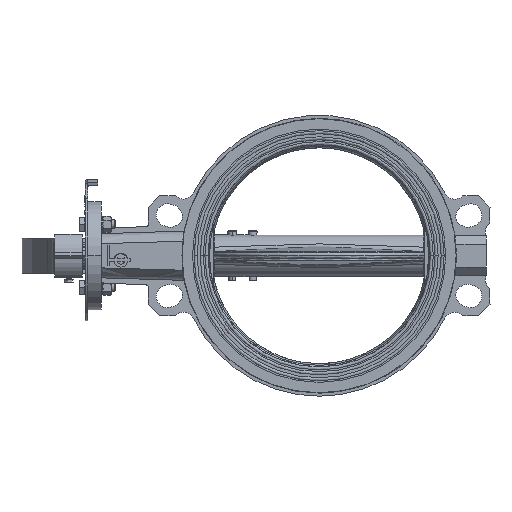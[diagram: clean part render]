
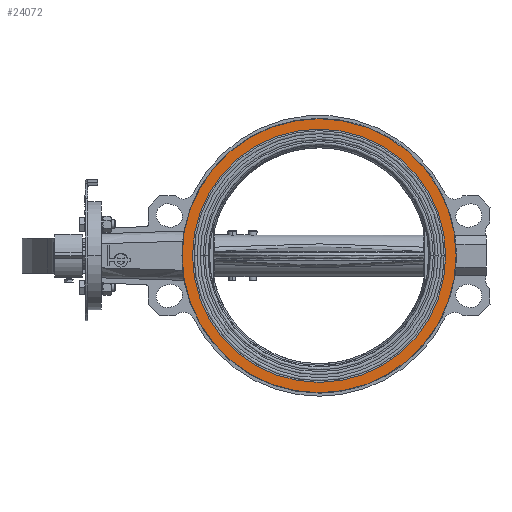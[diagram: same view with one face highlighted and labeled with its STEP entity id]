
A CAD part, left-side view. The second image highlights one B-rep face of the part: STEP entity #24072.
In plain terms, the highlighted planar face has unit normal (-1, 0, 0).
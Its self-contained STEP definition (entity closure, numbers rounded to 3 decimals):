
#912 = CIRCLE ( 'NONE', #53726, 158. ) ;
#946 = EDGE_LOOP ( 'NONE', ( #42195, #7772 ) ) ;
#2522 = CIRCLE ( 'NONE', #3567, 146. ) ;
#3353 = DIRECTION ( 'NONE',  ( 1., 0., 0. ) ) ;
#3567 = AXIS2_PLACEMENT_3D ( 'NONE', #8195, #3353, #19509 ) ;
#7772 = ORIENTED_EDGE ( 'NONE', *, *, #13177, .F. ) ;
#8195 = CARTESIAN_POINT ( 'NONE',  ( -33., 0., 0. ) ) ;
#8265 = EDGE_CURVE ( 'NONE', #38011, #41837, #9749, .T. ) ;
#9492 = EDGE_LOOP ( 'NONE', ( #27656, #36661 ) ) ;
#9749 = CIRCLE ( 'NONE', #18069, 158. ) ;
#9785 = DIRECTION ( 'NONE',  ( 1., 0., 0. ) ) ;
#10106 = FACE_BOUND ( 'NONE', #9492, .T. ) ;
#13177 = EDGE_CURVE ( 'NONE', #41837, #38011, #912, .T. ) ;
#14231 = CARTESIAN_POINT ( 'NONE',  ( -33., 0., 0. ) ) ;
#14472 = CARTESIAN_POINT ( 'NONE',  ( -33., 0., 0. ) ) ;
#15697 = VERTEX_POINT ( 'NONE', #43811 ) ;
#17483 = VERTEX_POINT ( 'NONE', #26835 ) ;
#18069 = AXIS2_PLACEMENT_3D ( 'NONE', #60992, #31714, #50582 ) ;
#19509 = DIRECTION ( 'NONE',  ( 0., 0., -1. ) ) ;
#19541 = DIRECTION ( 'NONE',  ( 0., 0., -1. ) ) ;
#22333 = CARTESIAN_POINT ( 'NONE',  ( -33., 0., -158. ) ) ;
#22938 = AXIS2_PLACEMENT_3D ( 'NONE', #14472, #44641, #44964 ) ;
#24072 = ADVANCED_FACE ( 'NONE', ( #10106, #53940 ), #28594, .F. ) ;
#26835 = CARTESIAN_POINT ( 'NONE',  ( -33., 0., -146. ) ) ;
#27656 = ORIENTED_EDGE ( 'NONE', *, *, #30415, .T. ) ;
#28594 = PLANE ( 'NONE',  #31197 ) ;
#29109 = DIRECTION ( 'NONE',  ( 0., 0., -1. ) ) ;
#30415 = EDGE_CURVE ( 'NONE', #17483, #15697, #2522, .T. ) ;
#31197 = AXIS2_PLACEMENT_3D ( 'NONE', #54264, #9785, #19541 ) ;
#31714 = DIRECTION ( 'NONE',  ( 1., 0., 0. ) ) ;
#34009 = DIRECTION ( 'NONE',  ( 1., 0., 0. ) ) ;
#36099 = CARTESIAN_POINT ( 'NONE',  ( -33., 0., 158. ) ) ;
#36661 = ORIENTED_EDGE ( 'NONE', *, *, #58767, .T. ) ;
#38011 = VERTEX_POINT ( 'NONE', #22333 ) ;
#41837 = VERTEX_POINT ( 'NONE', #36099 ) ;
#42195 = ORIENTED_EDGE ( 'NONE', *, *, #8265, .F. ) ;
#43811 = CARTESIAN_POINT ( 'NONE',  ( -33., 0., 146. ) ) ;
#44641 = DIRECTION ( 'NONE',  ( 1., 0., 0. ) ) ;
#44964 = DIRECTION ( 'NONE',  ( 0., 0., -1. ) ) ;
#50582 = DIRECTION ( 'NONE',  ( 0., 0., -1. ) ) ;
#50916 = CIRCLE ( 'NONE', #22938, 146. ) ;
#53726 = AXIS2_PLACEMENT_3D ( 'NONE', #14231, #34009, #29109 ) ;
#53940 = FACE_OUTER_BOUND ( 'NONE', #946, .T. ) ;
#54264 = CARTESIAN_POINT ( 'NONE',  ( -33., 0., 0. ) ) ;
#58767 = EDGE_CURVE ( 'NONE', #15697, #17483, #50916, .T. ) ;
#60992 = CARTESIAN_POINT ( 'NONE',  ( -33., 0., 0. ) ) ;
